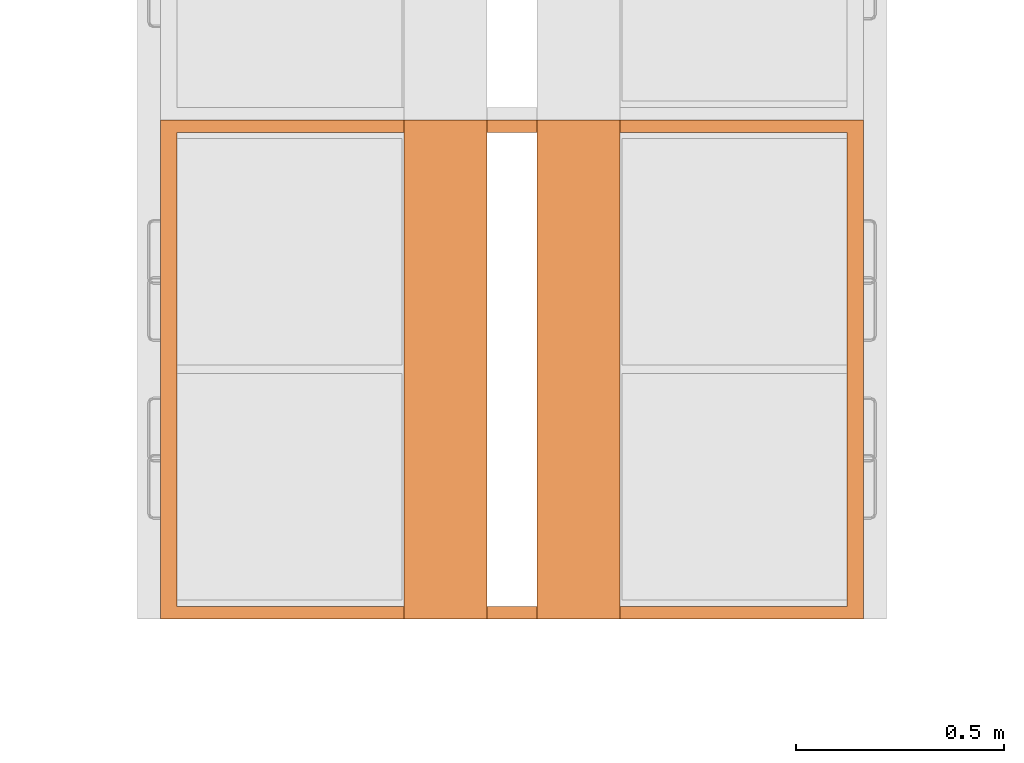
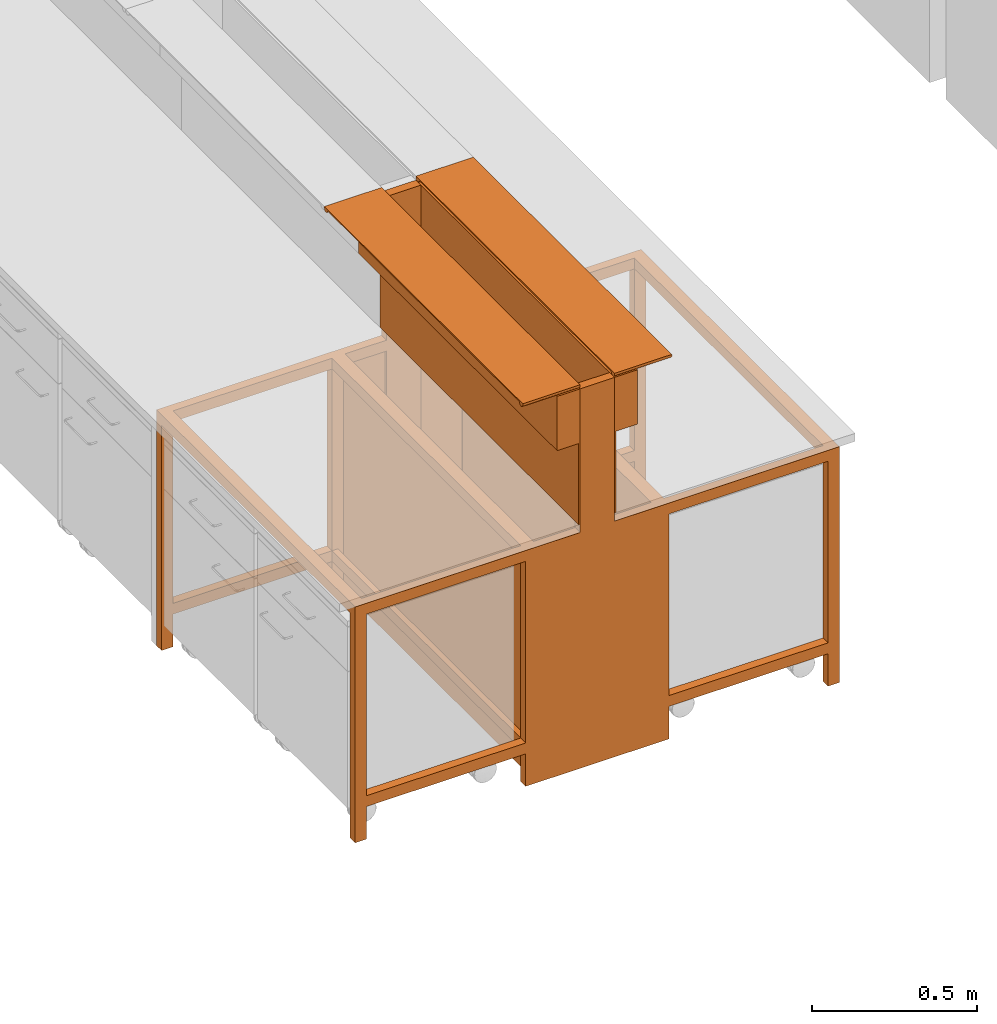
# One storey, part 2 of 43: 3 proxies.
"""IFC2X3 building model written with IfcOpenShell, lengths in metres."""

import ifcopenshell
import ifcopenshell.guid

model = None  # the IFC model being written
_history = None  # IfcOwnerHistory: only IFC2X3 demands one
_inside = {}  # id of a spatial element -> (the spatial element, [elements in it])
_under = {}  # id of a project, library or spatial element -> (it, [spatial elements below it])
_declared = {}  # id of a project -> (the project, [libraries it declares])
_typed = {}  # id of a type object -> (the type object, [elements of that type])
_made_of = {}  # id of a material, layer set ... -> (it, [elements and type objects made of it])


def new_model(schema):
    """Start an empty IFC model of exactly this schema.

    Asked for "IFC4X3", IfcOpenShell would pick the latest addendum, in which some entities
    have other attributes; the version numbers below select the first issue.
    IFC2X3 requires an IfcOwnerHistory on every rooted entity: one is made here for all.
    """
    global model, _history
    if schema == "IFC4X3":
        model = ifcopenshell.file(schema_version=(4, 3, 0, 0))
    else:
        model = ifcopenshell.file(schema=schema)
    _inside.clear()
    _under.clear()
    _declared.clear()
    _typed.clear()
    _made_of.clear()
    _history = None
    if model.schema == "IFC2X3":
        org = make("IfcOrganization", Name="unknown")
        user = make(
            "IfcPersonAndOrganization",
            ThePerson=make("IfcPerson", FamilyName="unknown"),
            TheOrganization=org,
        )
        app = make(
            "IfcApplication",
            ApplicationDeveloper=org,
            Version="unknown",
            ApplicationFullName="unknown",
            ApplicationIdentifier="unknown",
        )
        _history = make(
            "IfcOwnerHistory",
            OwningUser=user,
            OwningApplication=app,
            ChangeAction="ADDED",
            CreationDate=0,
        )
    return model


def make(cls, **values):
    """One entity of the class cls with the attributes given. An attribute that is None is left unset."""
    return model.create_entity(
        cls, **{name: value for name, value in values.items() if value is not None}
    )


def entity(cls, *values):
    """Any entity or typed value of the class cls, its attributes in the order of the schema. None: left unset."""
    e = model.create_entity(cls)
    for i, value in enumerate(values):
        if value is not None:
            e[i] = value
    return e


def rooted(cls, **values):
    """An entity with a GlobalId (a new one), such as an element, a storey or a relation."""
    return make(cls, GlobalId=ifcopenshell.guid.new(), OwnerHistory=_history, **values)


def si_unit(unit_type, name, prefix=None):
    """IfcSIUnit, for example si_unit("LENGTHUNIT", "METRE", prefix="MILLI")."""
    return make("IfcSIUnit", UnitType=unit_type, Prefix=prefix, Name=name)


def converted_unit(unit_type, name, factor, base, dimensions=None, offset=None):
    """IfcConversionBasedUnit, such as the inch: factor (a typed value) times the base unit."""
    return make(
        "IfcConversionBasedUnit"
        if offset is None
        else "IfcConversionBasedUnitWithOffset",
        ConversionOffset=offset,
        Dimensions=None
        if dimensions is None
        else entity("IfcDimensionalExponents", *dimensions),
        UnitType=unit_type,
        Name=name,
        ConversionFactor=make(
            "IfcMeasureWithUnit", ValueComponent=factor, UnitComponent=base
        ),
    )


def derived_unit(unit_type, elements):
    """IfcDerivedUnit: a product of units, each with its exponent."""
    return make(
        "IfcDerivedUnit",
        Elements=[
            make("IfcDerivedUnitElement", Unit=unit, Exponent=power)
            for unit, power in elements
        ],
        UnitType=unit_type,
    )


def assignment(units):
    """IfcUnitAssignment: the units of a project."""
    return None if units is None else make("IfcUnitAssignment", Units=units)


def point(xyz):
    """IfcCartesianPoint."""
    return None if xyz is None else make("IfcCartesianPoint", Coordinates=xyz)


def direction(xyz):
    """IfcDirection."""
    return None if xyz is None else make("IfcDirection", DirectionRatios=xyz)


def frame(location, z_axis=None, x_axis=None):
    """IfcAxis2Placement3D, a coordinate frame: its origin and axes. An axis left out is left unset."""
    return make(
        "IfcAxis2Placement3D",
        Location=point(location),
        Axis=direction(z_axis),
        RefDirection=direction(x_axis),
    )


def frame_2d(location, x_axis=None):
    """IfcAxis2Placement2D, a coordinate frame in the plane: its origin and x axis."""
    return make(
        "IfcAxis2Placement2D", Location=point(location), RefDirection=direction(x_axis)
    )


def origin():
    """The frame at (0, 0, 0) with its axes left unset."""
    return frame((0.0, 0.0, 0.0))


def origin_2d_with_axis():
    """The frame at (0, 0) in the plane with the x axis (1, 0) written out."""
    return frame_2d((0.0, 0.0), x_axis=(1.0, 0.0))


def place(relative_to, where):
    """IfcLocalPlacement: puts the frame where relative to a parent placement (None: the world)."""
    return make(
        "IfcLocalPlacement", PlacementRelTo=relative_to, RelativePlacement=where
    )


def context(
    kind, dimensions, precision=None, world=None, true_north=None, identifier=None
):
    """IfcGeometricRepresentationContext, for example the 3D "Model" context."""
    return make(
        "IfcGeometricRepresentationContext",
        ContextIdentifier=identifier,
        ContextType=kind,
        CoordinateSpaceDimension=dimensions,
        Precision=precision,
        WorldCoordinateSystem=world,
        TrueNorth=true_north,
    )


def subcontext(parent, identifier, kind, view, scale=None):
    """IfcGeometricRepresentationSubContext, for example "Body" below "Model"."""
    return make(
        "IfcGeometricRepresentationSubContext",
        ContextIdentifier=identifier,
        ContextType=kind,
        ParentContext=parent,
        TargetScale=scale,
        TargetView=view,
    )


def project(units=None, contexts=None):
    """IfcProject with its units and contexts."""
    return rooted(
        "IfcProject",
        Name="project",
        RepresentationContexts=contexts,
        UnitsInContext=assignment(units),
    )


def spatial(cls, under=None, at=None, **own):
    """A site, building, storey or space (cls), placed at a placement, below another one or the project."""
    s = rooted(cls, ObjectPlacement=at, **own)
    if under is not None:
        _under.setdefault(under.id(), (under, []))[1].append(s)
    return s


def polyline(points):
    """IfcPolyline through the points."""
    return make("IfcPolyline", Points=[point(p) for p in points])


def circle_curve(where, radius):
    """IfcCircle in the frame where."""
    return make("IfcCircle", Position=where, Radius=radius)


def parameter(value):
    """IfcParameterValue: where a trimmed curve begins or ends, as a parameter of its basis curve."""
    return model.create_entity("IfcParameterValue", value)


def trimmed(basis, trim1, trim2, sense, master):
    """IfcTrimmedCurve: the piece of a basis curve between two trims."""
    return make(
        "IfcTrimmedCurve",
        BasisCurve=basis,
        Trim1=trim1,
        Trim2=trim2,
        SenseAgreement=sense,
        MasterRepresentation=master,
    )


def segment(curve, same_sense, transition):
    """IfcCompositeCurveSegment."""
    return make(
        "IfcCompositeCurveSegment",
        Transition=transition,
        SameSense=same_sense,
        ParentCurve=curve,
    )


def composite_curve(segments, self_intersect=None):
    """IfcCompositeCurve: segments joined end to end."""
    return make("IfcCompositeCurve", Segments=segments, SelfIntersect=self_intersect)


def profile(cls, at=None, kind="AREA", **sizes):
    """A parametric profile (cls). Its sizes go by their IFC names, for example OverallWidth=200.0."""
    return make(cls, ProfileType=kind, Position=at, **sizes)


def rectangle(**sizes):
    """IfcRectangleProfileDef."""
    return profile("IfcRectangleProfileDef", **sizes)


def outline(outer, holes=None, kind="AREA"):
    """IfcArbitraryClosedProfileDef: a profile drawn as a closed curve; with holes, ...WithVoids."""
    if holes is None:
        return make("IfcArbitraryClosedProfileDef", ProfileType=kind, OuterCurve=outer)
    return make(
        "IfcArbitraryProfileDefWithVoids",
        ProfileType=kind,
        OuterCurve=outer,
        InnerCurves=holes,
    )


def extrude(swept, where, along, depth):
    """IfcExtrudedAreaSolid: the profile swept, set in the frame where, extruded along a direction by depth."""
    return make(
        "IfcExtrudedAreaSolid",
        SweptArea=swept,
        Position=where,
        ExtrudedDirection=direction(along),
        Depth=depth,
    )


def faces_of(points, faces, orient=None, outer=None):
    """IfcFace entities. A face is a list of loops; a loop is a list of indices into points, from 0.

    orient and outer hold one flag for each loop. By default every Orientation is true, the
    first loop of a face is its IfcFaceOuterBound and the others are IfcFaceBound.
    """
    made = []
    for i, loops in enumerate(faces):
        bounds = []
        for j, loop in enumerate(loops):
            is_outer = j == 0 if outer is None else outer[i][j]
            bounds.append(
                make(
                    "IfcFaceOuterBound" if is_outer else "IfcFaceBound",
                    Bound=make("IfcPolyLoop", Polygon=[points[k] for k in loop]),
                    Orientation=True if orient is None else orient[i][j],
                )
            )
        made.append(make("IfcFace", Bounds=bounds))
    return made


def faceted_brep(points, faces, orient=None, outer=None, voids=None):
    """IfcFacetedBrep: a solid bounded by flat faces; with voids (closed shells), ...WithVoids."""
    shared = [point(p) for p in points]
    hull = make("IfcClosedShell", CfsFaces=faces_of(shared, faces, orient, outer))
    if voids is None:
        return make("IfcFacetedBrep", Outer=hull)
    return make(
        "IfcFacetedBrepWithVoids",
        Outer=hull,
        Voids=[
            make(cls, CfsFaces=faces_of(shared, fs, o, b)) for cls, fs, o, b in voids
        ],
    )


def shape(context_of_items, identifier, shape_type, items):
    """IfcShapeRepresentation: the items that make up one representation, for example the "Body"."""
    return make(
        "IfcShapeRepresentation",
        ContextOfItems=context_of_items,
        RepresentationIdentifier=identifier,
        RepresentationType=shape_type,
        Items=items,
    )


def source(mapping_origin, context_of_items, identifier, shape_type, items):
    """IfcRepresentationMap: a shape defined once, which mapped items show again and again."""
    return make(
        "IfcRepresentationMap",
        MappingOrigin=mapping_origin,
        MappedRepresentation=shape(context_of_items, identifier, shape_type, items),
    )


def transform(
    local_origin,
    x_axis=None,
    y_axis=None,
    z_axis=None,
    scale=None,
    scale2=None,
    scale3=None,
    uniform=True,
):
    """IfcCartesianTransformationOperator3D, or its non-uniform kind. x_axis, y_axis, z_axis: its Axis1, 2, 3."""
    if uniform:
        return make(
            "IfcCartesianTransformationOperator3D",
            Axis1=direction(x_axis),
            Axis2=direction(y_axis),
            LocalOrigin=point(local_origin),
            Scale=scale,
            Axis3=direction(z_axis),
        )
    return make(
        "IfcCartesianTransformationOperator3DnonUniform",
        Axis1=direction(x_axis),
        Axis2=direction(y_axis),
        LocalOrigin=point(local_origin),
        Scale=scale,
        Axis3=direction(z_axis),
        Scale2=scale2,
        Scale3=scale3,
    )


def mapped(mapping_source, mapping_target):
    """IfcMappedItem: shows the shape of a source again, moved by a transform."""
    return make(
        "IfcMappedItem", MappingSource=mapping_source, MappingTarget=mapping_target
    )


def material(Name=None, Category=None):
    """IfcMaterial."""
    return make("IfcMaterial", Name=Name, Category=Category)


def material_list(materials):
    """IfcMaterialList."""
    return make("IfcMaterialList", Materials=materials)


def made_of(thing, what):
    """Note that an element or type object is made of a material, layer set ...; save() writes the relation."""
    if what is not None:
        _made_of.setdefault(what.id(), (what, []))[1].append(thing)
    return thing


def type_object(cls, material=None, **own):
    """A type object (cls), such as IfcWallType, which elements share."""
    return made_of(rooted(cls, **own), material)


def type_shapes(of_type, sources):
    """Give a type object the sources (RepresentationMaps) that its elements show as mapped items."""
    of_type.RepresentationMaps = sources


def element(
    cls,
    number,
    at=None,
    inside=None,
    cuts=None,
    type_object=None,
    material=None,
    context=None,
    identifier="Body",
    shape_type=None,
    held_by="IfcProductDefinitionShape",
    body=None,
    shapes=None,
    **own,
):
    """One element of the class cls, such as IfcWall. Its Tag is "e" and its number.

    at: its placement. inside: the storey or other place that contains it. cuts: it is an
    opening in that element (IfcRelVoidsElement). A single representation is given by context,
    identifier, shape_type and body (its items); several are given by shapes. held_by: the class
    of the entity that holds the representations. save() writes the other relations.
    """
    e = rooted(cls, Tag="e%d" % number, ObjectPlacement=at, **own)
    if body is not None:
        shapes = [shape(context, identifier, shape_type, body)]
    if shapes is not None:
        e.Representation = make(held_by, Representations=shapes)
    if inside is not None:
        _inside.setdefault(inside.id(), (inside, []))[1].append(e)
    if cuts is not None:
        rooted(
            "IfcRelVoidsElement", RelatingBuildingElement=cuts, RelatedOpeningElement=e
        )
    if type_object is not None:
        _typed.setdefault(type_object.id(), (type_object, []))[1].append(e)
    return made_of(e, material)


def aggregate(whole, parts):
    """IfcRelAggregates: a whole, such as a stair, and the parts it consists of."""
    return rooted("IfcRelAggregates", RelatingObject=whole, RelatedObjects=parts)


def save(model, path):
    """Write the relations noted so far, then the file.

    IfcRelAggregates (storeys below a building ...), IfcRelContainedInSpatialStructure (elements
    in a storey), IfcRelDefinesByType, IfcRelAssociatesMaterial and IfcRelDeclares: one each for
    every whole, place, type object, material and project.
    """
    for whole, parts in _under.values():
        aggregate(whole, parts)
    for where, things in _inside.values():
        rooted(
            "IfcRelContainedInSpatialStructure",
            RelatedElements=things,
            RelatingStructure=where,
        )
    for kind, things in _typed.values():
        rooted("IfcRelDefinesByType", RelatedObjects=things, RelatingType=kind)
    for what, things in _made_of.values():
        rooted("IfcRelAssociatesMaterial", RelatedObjects=things, RelatingMaterial=what)
    for by, libraries in _declared.values():
        rooted("IfcRelDeclares", RelatingContext=by, RelatedDefinitions=libraries)
    model.write(path)


model = new_model("IFC2X3")

# Units and contexts
model_context = context("Model", 3, precision=1e-05, world=origin(), true_north=direction((6.12303176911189e-17, 1.0)))
body_context = subcontext(model_context, "Body", "Model", "MODEL_VIEW")
ifc_project = project(units=[si_unit("LENGTHUNIT", "METRE"), si_unit("AREAUNIT", "SQUARE_METRE"), si_unit("VOLUMEUNIT", "CUBIC_METRE"), converted_unit("PLANEANGLEUNIT", "DEGREE", entity("IfcRatioMeasure", 0.0174532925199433), si_unit("PLANEANGLEUNIT", "RADIAN"), dimensions=[0, 0, 0, 0, 0, 0, 0]), si_unit("MASSUNIT", "GRAM", prefix="KILO"), derived_unit("MASSDENSITYUNIT", [(si_unit("MASSUNIT", "GRAM", prefix="KILO"), 1), (si_unit("LENGTHUNIT", "METRE"), -3)]), derived_unit("MOMENTOFINERTIAUNIT", [(si_unit("LENGTHUNIT", "METRE"), 4)]), si_unit("TIMEUNIT", "SECOND"), si_unit("FREQUENCYUNIT", "HERTZ"), si_unit("THERMODYNAMICTEMPERATUREUNIT", "DEGREE_CELSIUS"), derived_unit("THERMALTRANSMITTANCEUNIT", [(si_unit("MASSUNIT", "GRAM", prefix="KILO"), 1), (si_unit("THERMODYNAMICTEMPERATUREUNIT", "KELVIN"), -1), (si_unit("TIMEUNIT", "SECOND"), -3)]), derived_unit("VOLUMETRICFLOWRATEUNIT", [(si_unit("LENGTHUNIT", "METRE"), 3), (si_unit("TIMEUNIT", "SECOND"), -1)]), si_unit("ELECTRICCURRENTUNIT", "AMPERE"), si_unit("ELECTRICVOLTAGEUNIT", "VOLT"), si_unit("POWERUNIT", "WATT"), si_unit("FORCEUNIT", "NEWTON", prefix="KILO"), si_unit("ILLUMINANCEUNIT", "LUX"), si_unit("LUMINOUSFLUXUNIT", "LUMEN"), si_unit("LUMINOUSINTENSITYUNIT", "CANDELA"), derived_unit("USERDEFINED", [(si_unit("MASSUNIT", "GRAM", prefix="KILO"), -1), (si_unit("LENGTHUNIT", "METRE"), -2), (si_unit("TIMEUNIT", "SECOND"), 3), (si_unit("LUMINOUSFLUXUNIT", "LUMEN"), 1)]), derived_unit("LINEARVELOCITYUNIT", [(si_unit("LENGTHUNIT", "METRE"), 1), (si_unit("TIMEUNIT", "SECOND"), -1)]), si_unit("PRESSUREUNIT", "PASCAL"), derived_unit("USERDEFINED", [(si_unit("LENGTHUNIT", "METRE"), -2), (si_unit("MASSUNIT", "GRAM", prefix="KILO"), 1), (si_unit("TIMEUNIT", "SECOND"), -2)]), derived_unit("LINEARFORCEUNIT", [(si_unit("MASSUNIT", "GRAM", prefix="KILO"), 1), (si_unit("LENGTHUNIT", "METRE"), 1), (si_unit("TIMEUNIT", "SECOND"), -2), (si_unit("LENGTHUNIT", "METRE"), -1)]), derived_unit("PLANARFORCEUNIT", [(si_unit("MASSUNIT", "GRAM", prefix="KILO"), 1), (si_unit("LENGTHUNIT", "METRE"), 1), (si_unit("TIMEUNIT", "SECOND"), -2), (si_unit("LENGTHUNIT", "METRE"), -2)])], contexts=[model_context])

# Site, building, storey
site_placement = place(None, origin())
site = spatial("IfcSite", under=ifc_project, at=site_placement, Name="Default", CompositionType="ELEMENT")
building_placement = place(site_placement, origin())
building = spatial("IfcBuilding", under=site, at=building_placement, CompositionType="ELEMENT")
storey_placement = place(building_placement, frame((0.0, 0.0, 3.0)))
storey = spatial("IfcBuildingStorey", under=building, at=storey_placement, Name="01 OG", CompositionType="ELEMENT", Elevation=3.0)

# Proxies
ifc_material_1 = material(Name="dh_Weiß")
ifc_material_2 = material(Name="dh_Glas WHS")
ifc_material_3 = material(Name="dh_Blau")
ifc_material_list_1 = material_list([ifc_material_1, ifc_material_2, ifc_material_3])
ifc_material_list_2 = material_list([ifc_material_2, ifc_material_3, ifc_material_1])
building_element_proxy_type_1 = type_object("IfcBuildingElementProxyType", Name="dh_Medienwand WHA:120 Stehtisch", PredefinedType="NOTDEFINED", material=ifc_material_list_2)
shared_shape_1 = source(origin(), body_context, "Body", "SweptSolid", [
    extrude(outline(composite_curve([segment(trimmed(circle_curve(frame_2d((0.0, 0.0), x_axis=(-1.0, 0.0)), 0.01), [parameter(0.0)], [parameter(180.0)], True, "PARAMETER"), True, "CONTINUOUS"), segment(polyline([(0.01, 0.0), (-0.01, 0.0)]), True, "CONTINUOUS")], self_intersect=False)), frame((-0.589999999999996, 0.1, 1.40999999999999), z_axis=(0.0, -1.0, 0.0), x_axis=(1.0, 0.0, 0.0)), (0.0, 0.0, -1.0), 0.2),
    extrude(outline(composite_curve([segment(trimmed(circle_curve(origin_2d_with_axis(), 0.00999999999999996), [parameter(0.0)], [parameter(180.0)], True, "PARAMETER"), True, "CONTINUOUS"), segment(polyline([(-0.0099999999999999, 0.0), (0.0099999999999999, 0.0)]), True, "CONTINUOUS")], self_intersect=False)), frame((0.590000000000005, 0.1, 1.40999999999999), z_axis=(0.0, 1.0, 0.0), x_axis=(1.0, 0.0, 0.0)), (0.0, 0.0, 1.0), 0.2),
    extrude(rectangle(XDim=1.2, YDim=0.2, at=origin_2d_with_axis()), frame((0.0, 0.2, 1.40999999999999), z_axis=(0.0, 0.0, 1.0), x_axis=(-1.0, 0.0, 0.0)), (0.0, 0.0, 1.0), 0.00499999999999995),
    extrude(rectangle(XDim=0.00500000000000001, YDim=1.2, at=frame_2d((-3.38271077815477e-17, 0.0), x_axis=(1.0, 0.0))), frame((0.0, 0.2975, 0.900000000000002), z_axis=(0.0, 0.0, 1.0), x_axis=(0.0, 1.0, 0.0)), (0.0, 0.0, 1.0), 0.299999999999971),
    extrude(rectangle(XDim=1.2, YDim=0.08, at=frame_2d((0.0, 3.46944695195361e-17), x_axis=(1.0, 0.0))), frame((0.0, 0.26, 1.20000000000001), z_axis=(0.0, 0.0, 1.0), x_axis=(-1.0, 0.0, 0.0)), (0.0, 0.0, 1.0), 0.199999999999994),
])
type_shapes(building_element_proxy_type_1, [shared_shape_1])
proxy_1_placement = place(storey_placement, frame((13.24, 12.1240000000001, 0.7), z_axis=(0.0, 0.0, 1.0), x_axis=(0.0, -1.0, 0.0)))
element("IfcBuildingElementProxy", 1, at=proxy_1_placement, inside=storey, type_object=building_element_proxy_type_1, material=ifc_material_list_1, Name="dh_Medienwand WHA:120 Stehtisch", ObjectType="dh_Medienwand WHA:120 Stehtisch", context=body_context, shape_type="MappedRepresentation", body=[
    mapped(shared_shape_1, transform((0.0, 0.0, 0.0), scale=1.0)),
])
ifc_material_list_3 = material_list([ifc_material_1, ifc_material_2, ifc_material_3])
proxy_2_placement = place(storey_placement, frame((13.96, 12.1240000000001, 0.7), z_axis=(0.0, 0.0, 1.0), x_axis=(0.0, 1.0, 0.0)))
element("IfcBuildingElementProxy", 2, at=proxy_2_placement, inside=storey, type_object=building_element_proxy_type_1, material=ifc_material_list_3, Name="dh_Medienwand WHA:120 Stehtisch", ObjectType="dh_Medienwand WHA:120 Stehtisch", context=body_context, shape_type="MappedRepresentation", body=[
    mapped(shared_shape_1, transform((0.0, 0.0, 0.0), scale=1.0)),
])
ifc_material_4 = material(Name="dh_EZ blau")
ifc_material_5 = material(Name="Stopper")
ifc_material_list_4 = material_list([ifc_material_4, ifc_material_5, ifc_material_1])
ifc_material_list_5 = material_list([ifc_material_2, ifc_material_4])
building_element_proxy_type_2 = type_object("IfcBuildingElementProxyType", Name="dh_Energiezelle-Doppel ST:DEZ_ST120 ohne WHS WHA", PredefinedType="NOTDEFINED", material=ifc_material_list_5)
shared_shape_2 = source(origin(), body_context, "Body", "Brep", [
    faceted_brep([(0.6, 0.119999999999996, 1.4), (0.57, 0.119999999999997, 1.4), (0.57, 0.0, 1.4), (0.6, 0.0, 1.4), (0.57, 0.119999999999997, 0.0), (0.6, 0.119999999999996, 0.0), (0.6, 0.0, 0.0), (0.57, 0.0, 0.0)], [[[0, 1, 2, 3]], [[4, 5, 6, 7]], [[2, 1, 4, 7]], [[1, 0, 5, 4]], [[0, 3, 6, 5]], [[3, 2, 7, 6]]]),
    faceted_brep([(-0.6, 0.0, 1.4), (-0.599999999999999, 0.120000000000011, 1.4), (-0.599999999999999, 0.120000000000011, 0.0), (-0.6, 0.0, 0.0), (-0.569999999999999, 0.120000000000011, 1.4), (-0.569999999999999, 0.120000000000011, 0.0), (-0.570000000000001, 0.0, 1.4), (-0.57, 0.0, 0.0)], [[[0, 1, 2, 3]], [[1, 4, 5, 2]], [[4, 6, 7, 5]], [[6, 0, 3, 7]], [[2, 5, 7, 3]], [[4, 1, 0, 6]]]),
    faceted_brep([(-0.599999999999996, 0.120000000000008, 0.870000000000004), (-0.570000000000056, 0.120000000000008, 0.870000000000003), (-0.570000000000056, 0.270000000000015, 0.870000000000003), (0.569999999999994, 0.270000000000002, 0.87), (0.569999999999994, 0.12, 0.87), (0.600000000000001, 0.12, 0.87), (0.600000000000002, 0.904999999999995, 0.87), (-0.599999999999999, 0.905000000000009, 0.870000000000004), (0.569999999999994, 0.31, 0.87), (-0.570000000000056, 0.310000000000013, 0.870000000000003), (-0.570000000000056, 0.865000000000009, 0.870000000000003), (0.569999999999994, 0.864999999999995, 0.87), (0.569999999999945, 0.865000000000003, 0.83), (-0.570000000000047, 0.865000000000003, 0.830000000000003), (-0.570000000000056, 0.905000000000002, 0.830000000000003), (0.569999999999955, 0.905000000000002, 0.83), (-0.570000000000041, 0.270000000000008, 0.830000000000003), (0.569999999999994, 0.270000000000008, 0.83), (0.56999999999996, 0.31000000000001, 0.83), (-0.570000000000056, 0.31000000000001, 0.830000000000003), (-0.570000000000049, 0.905000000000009, 0.0100000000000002), (-0.600000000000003, 0.905000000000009, 0.0100000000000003), (0.599999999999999, 0.904999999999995, 0.00999999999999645), (0.569999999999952, 0.904999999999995, 0.00999999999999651), (0.599999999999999, 0.864999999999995, 0.00999999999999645), (0.569999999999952, 0.864999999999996, 0.00999999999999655), (-0.600000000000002, 0.865000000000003, 0.0100000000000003), (-0.599999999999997, 0.865000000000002, 0.830000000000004), (-0.600000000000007, 0.310000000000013, 0.830000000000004), (-0.60000000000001, 0.310000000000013, 0.0100000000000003), (-0.60000000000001, 0.270000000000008, 0.0100000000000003), (-0.600000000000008, 0.270000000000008, 0.830000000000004), (-0.599999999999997, 0.120000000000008, 0.830000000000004), (-0.570000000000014, 0.270000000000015, 0.0100000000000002), (-0.570000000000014, 0.31000000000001, 0.0100000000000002), (0.569999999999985, 0.31, 0.00999999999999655), (0.569999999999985, 0.270000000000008, 0.00999999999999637), (0.600000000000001, 0.12, 0.83), (0.599999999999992, 0.270000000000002, 0.83), (0.599999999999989, 0.270000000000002, 0.00999999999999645), (0.59999999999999, 0.31000000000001, 0.00999999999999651), (0.599999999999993, 0.31000000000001, 0.83), (0.599999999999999, 0.864999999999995, 0.83), (-0.570000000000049, 0.865000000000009, 0.0100000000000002), (-0.570000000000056, 0.120000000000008, 0.830000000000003), (0.569999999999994, 0.12, 0.83)], [[[0, 1, 2, 3, 4, 5, 6, 7], [8, 9, 10, 11]], [[12, 13, 14, 15]], [[16, 17, 3, 2]], [[18, 19, 9, 8]], [[13, 12, 11, 10]], [[15, 14, 20, 21, 7, 6, 22, 23]], [[24, 25, 23, 22]], [[0, 7, 21, 26, 27, 28, 29, 30, 31, 32]], [[33, 34, 19, 16]], [[35, 36, 17, 18]], [[6, 5, 37, 38, 39, 40, 41, 42, 24, 22]], [[43, 20, 14, 13]], [[23, 25, 12, 15]], [[44, 32, 31, 16]], [[1, 0, 32, 44]], [[10, 9, 19, 13]], [[8, 11, 12, 18]], [[5, 4, 45, 37]], [[45, 4, 3, 17]], [[1, 44, 16, 2]], [[37, 45, 17, 38]], [[18, 12, 42, 41]], [[13, 19, 28, 27]], [[43, 26, 21, 20]], [[39, 36, 35, 40]], [[33, 30, 29, 34]], [[26, 43, 13, 27]], [[25, 24, 42, 12]], [[40, 35, 18, 41]], [[34, 29, 28, 19]], [[30, 33, 16, 31]], [[36, 39, 38, 17]], [[17, 16, 19, 18]]]),
    faceted_brep([(-0.599999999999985, 0.270000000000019, 0.01), (-0.570000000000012, 0.270000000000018, 0.01), (-0.570000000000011, 0.310000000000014, 0.01), (-0.599999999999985, 0.310000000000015, 0.01), (-0.599999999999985, 0.310000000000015, 0.0), (-0.599999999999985, 0.270000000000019, 0.0), (-0.570000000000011, 0.310000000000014, 0.0), (-0.570000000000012, 0.270000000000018, 0.0)], [[[0, 1, 2, 3]], [[0, 3, 4, 5]], [[3, 2, 6, 4]], [[2, 1, 7, 6]], [[1, 0, 5, 7]], [[5, 4, 6, 7]]]),
    faceted_brep([(0.56999999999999, 0.270000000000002, 0.0), (0.569999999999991, 0.31, 0.0), (0.600000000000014, 0.31, 0.0), (0.600000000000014, 0.270000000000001, 0.0), (0.56999999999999, 0.270000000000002, 0.01), (0.569999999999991, 0.31, 0.01), (0.600000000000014, 0.31, 0.01), (0.600000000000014, 0.270000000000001, 0.01)], [[[0, 1, 2, 3]], [[4, 5, 1, 0]], [[5, 6, 2, 1]], [[6, 7, 3, 2]], [[7, 4, 0, 3]], [[4, 7, 6, 5]]]),
    faceted_brep([(0.570000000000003, 0.864999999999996, 0.01), (0.570000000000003, 0.904999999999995, 0.01), (0.570000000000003, 0.904999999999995, 0.0), (0.570000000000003, 0.864999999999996, 0.0), (0.600000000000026, 0.904999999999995, 0.01), (0.600000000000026, 0.904999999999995, 0.0), (0.600000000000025, 0.864999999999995, 0.01), (0.600000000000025, 0.864999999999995, 0.0)], [[[0, 1, 2, 3]], [[1, 4, 5, 2]], [[4, 6, 7, 5]], [[6, 0, 3, 7]], [[3, 2, 5, 7]], [[0, 6, 4, 1]]]),
    faceted_brep([(-0.599999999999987, 0.865000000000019, 0.01), (-0.599999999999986, 0.905000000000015, 0.01), (-0.599999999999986, 0.905000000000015, 0.0), (-0.599999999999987, 0.865000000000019, 0.0), (-0.569999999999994, 0.905000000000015, 0.01), (-0.569999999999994, 0.905000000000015, 0.0), (-0.569999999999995, 0.865000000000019, 0.01), (-0.569999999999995, 0.865000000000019, 0.0)], [[[0, 1, 2, 3]], [[1, 4, 5, 2]], [[4, 6, 7, 5]], [[6, 0, 3, 7]], [[3, 2, 5, 7]], [[0, 6, 4, 1]]]),
    faceted_brep([(0.569999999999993, 0.27, 0.870000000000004), (-0.570000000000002, 0.270000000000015, 0.870000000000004), (-0.570000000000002, 0.265000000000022, 0.870000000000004), (0.569999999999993, 0.265000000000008, 0.870000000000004), (0.569999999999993, 0.27, 0.0), (0.569999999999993, 0.265000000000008, 0.0), (-0.570000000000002, 0.265000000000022, 0.0), (-0.570000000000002, 0.270000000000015, 0.0)], [[[0, 1, 2, 3]], [[4, 5, 6, 7]], [[1, 0, 4, 7]], [[2, 1, 7, 6]], [[3, 2, 6, 5]], [[0, 3, 5, 4]]]),
    faceted_brep([(-0.6, 0.120000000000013, 0.830000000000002), (-0.58, 0.120000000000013, 0.830000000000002), (-0.579999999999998, 0.270000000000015, 0.830000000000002), (-0.599999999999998, 0.270000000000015, 0.830000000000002), (-0.599999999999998, 0.270000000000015, 0.0), (-0.6, 0.120000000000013, 0.0), (-0.579999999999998, 0.270000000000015, 0.0), (-0.58, 0.120000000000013, 0.0)], [[[0, 1, 2, 3]], [[0, 3, 4, 5]], [[3, 2, 6, 4]], [[2, 1, 7, 6]], [[1, 0, 5, 7]], [[5, 4, 6, 7]]]),
    faceted_brep([(0.58, 0.119999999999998, 0.0), (0.580000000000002, 0.270000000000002, 0.0), (0.600000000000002, 0.270000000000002, 0.0), (0.6, 0.119999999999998, 0.0), (0.58, 0.119999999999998, 0.830000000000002), (0.580000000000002, 0.270000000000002, 0.830000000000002), (0.600000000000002, 0.270000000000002, 0.830000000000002), (0.6, 0.119999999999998, 0.830000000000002)], [[[0, 1, 2, 3]], [[4, 5, 1, 0]], [[5, 6, 2, 1]], [[6, 7, 3, 2]], [[7, 4, 0, 3]], [[4, 7, 6, 5]]]),
    faceted_brep([(0.569999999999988, 0.290000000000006, 0.16), (0.569999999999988, 0.310000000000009, 0.16), (-0.570000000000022, 0.310000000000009, 0.160000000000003), (-0.570000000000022, 0.290000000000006, 0.160000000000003), (0.569999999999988, 0.290000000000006, 0.12), (-0.570000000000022, 0.290000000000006, 0.120000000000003), (-0.570000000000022, 0.310000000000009, 0.120000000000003), (0.569999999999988, 0.310000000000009, 0.12)], [[[0, 1, 2, 3]], [[4, 5, 6, 7]], [[0, 3, 5, 4]], [[3, 2, 6, 5]], [[2, 1, 7, 6]], [[1, 0, 4, 7]]]),
    faceted_brep([(0.569999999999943, 0.310000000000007, 0.16), (0.599999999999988, 0.310000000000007, 0.16), (0.599999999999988, 0.865000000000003, 0.16), (0.569999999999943, 0.865000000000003, 0.16), (0.569999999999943, 0.310000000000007, 0.12), (0.569999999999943, 0.865000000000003, 0.12), (0.599999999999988, 0.865000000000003, 0.12), (0.599999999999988, 0.310000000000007, 0.12)], [[[0, 1, 2, 3]], [[4, 5, 6, 7]], [[0, 3, 5, 4]], [[3, 2, 6, 5]], [[2, 1, 7, 6]], [[1, 0, 4, 7]]]),
    faceted_brep([(-0.570000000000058, 0.310000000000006, 0.160000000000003), (-0.600000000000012, 0.310000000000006, 0.160000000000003), (-0.600000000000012, 0.310000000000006, 0.120000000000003), (-0.570000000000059, 0.310000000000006, 0.120000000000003), (-0.600000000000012, 0.865000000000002, 0.160000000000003), (-0.600000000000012, 0.865000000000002, 0.120000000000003), (-0.570000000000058, 0.865000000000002, 0.160000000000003), (-0.570000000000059, 0.865000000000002, 0.120000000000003)], [[[0, 1, 2, 3]], [[1, 4, 5, 2]], [[4, 6, 7, 5]], [[6, 0, 3, 7]], [[3, 2, 5, 7]], [[0, 6, 4, 1]]]),
    faceted_brep([(-0.599999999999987, -0.150000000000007, 0.01), (-0.599999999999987, -0.190000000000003, 0.01), (-0.570000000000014, -0.190000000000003, 0.01), (-0.570000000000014, -0.150000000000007, 0.01), (-0.599999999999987, -0.150000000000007, 0.0), (-0.599999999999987, -0.190000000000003, 0.0), (-0.570000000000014, -0.190000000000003, 0.0), (-0.570000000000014, -0.150000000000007, 0.0)], [[[0, 1, 2, 3]], [[1, 0, 4, 5]], [[2, 1, 5, 6]], [[3, 2, 6, 7]], [[0, 3, 7, 4]], [[4, 7, 6, 5]]]),
    faceted_brep([(-0.599999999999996, -0.745000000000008, 0.0), (-0.570000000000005, -0.745000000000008, 0.0), (-0.570000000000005, -0.785000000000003, 0.0), (-0.599999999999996, -0.785000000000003, 0.0), (-0.599999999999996, -0.785000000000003, 0.01), (-0.599999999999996, -0.745000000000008, 0.01), (-0.570000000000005, -0.785000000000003, 0.01), (-0.570000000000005, -0.745000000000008, 0.01)], [[[0, 1, 2, 3]], [[4, 5, 0, 3]], [[6, 4, 3, 2]], [[7, 6, 2, 1]], [[5, 7, 1, 0]], [[5, 4, 6, 7]]]),
    faceted_brep([(0.569999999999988, -0.190000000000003, 0.01), (0.569999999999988, -0.150000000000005, 0.01), (0.569999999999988, -0.150000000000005, 0.0), (0.569999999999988, -0.190000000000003, 0.0), (0.600000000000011, -0.190000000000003, 0.01), (0.600000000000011, -0.190000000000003, 0.0), (0.600000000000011, -0.150000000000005, 0.01), (0.600000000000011, -0.150000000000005, 0.0)], [[[0, 1, 2, 3]], [[4, 0, 3, 5]], [[6, 4, 5, 7]], [[1, 6, 7, 2]], [[2, 7, 5, 3]], [[1, 0, 4, 6]]]),
    faceted_brep([(0.569999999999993, -0.784999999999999, 0.01), (0.569999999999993, -0.744999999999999, 0.01), (0.569999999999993, -0.744999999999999, 0.0), (0.569999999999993, -0.784999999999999, 0.0), (0.600000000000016, -0.784999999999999, 0.01), (0.600000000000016, -0.784999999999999, 0.0), (0.600000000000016, -0.744999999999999, 0.01), (0.600000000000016, -0.744999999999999, 0.0)], [[[0, 1, 2, 3]], [[4, 0, 3, 5]], [[6, 4, 5, 7]], [[1, 6, 7, 2]], [[2, 7, 5, 3]], [[1, 0, 4, 6]]]),
    faceted_brep([(0.569999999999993, -0.150000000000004, 0.870000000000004), (0.569999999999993, -0.145000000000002, 0.870000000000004), (-0.570000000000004, -0.145000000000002, 0.870000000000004), (-0.570000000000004, -0.150000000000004, 0.870000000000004), (0.569999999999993, -0.150000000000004, 0.0), (-0.570000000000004, -0.150000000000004, 0.0), (-0.570000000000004, -0.145000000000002, 0.0), (0.569999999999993, -0.145000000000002, 0.0)], [[[0, 1, 2, 3]], [[4, 5, 6, 7]], [[0, 3, 5, 4]], [[3, 2, 6, 5]], [[2, 1, 7, 6]], [[1, 0, 4, 7]]]),
    faceted_brep([(-0.6, 0.0, 0.830000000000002), (-0.6, -0.150000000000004, 0.830000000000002), (-0.58, -0.150000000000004, 0.830000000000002), (-0.58, 0.0, 0.830000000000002), (-0.6, 0.0, 0.0), (-0.58, 0.0, 0.0), (-0.58, -0.150000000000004, 0.0), (-0.6, -0.150000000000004, 0.0)], [[[0, 1, 2, 3]], [[4, 5, 6, 7]], [[1, 0, 4, 7]], [[2, 1, 7, 6]], [[3, 2, 6, 5]], [[0, 3, 5, 4]]]),
    faceted_brep([(0.58, -0.150000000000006, 0.830000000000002), (0.58, 0.0, 0.830000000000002), (0.58, 0.0, 0.0), (0.58, -0.150000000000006, 0.0), (0.6, -0.150000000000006, 0.830000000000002), (0.6, -0.150000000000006, 0.0), (0.6, 0.0, 0.830000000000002), (0.6, 0.0, 0.0)], [[[0, 1, 2, 3]], [[4, 0, 3, 5]], [[6, 4, 5, 7]], [[1, 6, 7, 2]], [[2, 7, 5, 3]], [[1, 0, 4, 6]]]),
    faceted_brep([(-0.570000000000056, 0.0, 0.870000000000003), (-0.60000000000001, 0.0, 0.870000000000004), (-0.600000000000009, -0.784999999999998, 0.870000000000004), (0.599999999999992, -0.784999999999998, 0.87), (0.59999999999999, 0.0, 0.87), (0.569999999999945, 0.0, 0.87), (0.569999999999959, -0.150000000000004, 0.87), (-0.570000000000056, -0.150000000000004, 0.870000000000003), (-0.570000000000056, -0.744999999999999, 0.870000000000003), (-0.570000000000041, -0.190000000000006, 0.870000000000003), (0.569999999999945, -0.190000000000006, 0.87), (0.569999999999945, -0.744999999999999, 0.87), (-0.60000000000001, 0.0, 0.830000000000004), (-0.570000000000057, 0.0, 0.830000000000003), (-0.570000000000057, -0.150000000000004, 0.830000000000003), (-0.60000000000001, -0.150000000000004, 0.830000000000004), (-0.600000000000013, -0.150000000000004, 0.0100000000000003), (-0.600000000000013, -0.190000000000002, 0.0100000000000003), (-0.60000000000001, -0.190000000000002, 0.830000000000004), (-0.60000000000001, -0.744999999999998, 0.830000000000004), (-0.600000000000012, -0.744999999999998, 0.0100000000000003), (-0.600000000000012, -0.784999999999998, 0.0100000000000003), (0.569999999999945, 0.0, 0.83), (0.569999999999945, -0.150000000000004, 0.83), (0.59999999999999, 0.0, 0.83), (0.599999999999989, -0.784999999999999, 0.00999999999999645), (0.599999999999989, -0.744999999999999, 0.00999999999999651), (0.59999999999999, -0.744999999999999, 0.83), (0.59999999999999, -0.190000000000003, 0.83), (0.599999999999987, -0.190000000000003, 0.00999999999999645), (0.599999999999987, -0.150000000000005, 0.00999999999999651), (0.59999999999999, -0.150000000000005, 0.83), (-0.570000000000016, -0.150000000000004, 0.0100000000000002), (-0.570000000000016, -0.190000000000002, 0.0100000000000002), (-0.570000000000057, -0.190000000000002, 0.830000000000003), (0.569999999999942, -0.150000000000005, 0.00999999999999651), (0.569999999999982, -0.190000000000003, 0.00999999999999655), (0.569999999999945, -0.190000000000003, 0.83), (-0.570000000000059, -0.744999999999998, 0.0100000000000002), (-0.570000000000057, -0.744999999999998, 0.830000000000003), (-0.570000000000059, -0.784999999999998, 0.0100000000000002), (-0.570000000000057, -0.784999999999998, 0.830000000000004), (0.569999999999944, -0.784999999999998, 0.83), (0.569999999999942, -0.784999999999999, 0.00999999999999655), (0.569999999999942, -0.744999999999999, 0.00999999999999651), (0.569999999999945, -0.744999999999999, 0.83)], [[[0, 1, 2, 3, 4, 5, 6, 7], [8, 9, 10, 11]], [[12, 13, 14, 15]], [[1, 0, 13, 12]], [[1, 12, 15, 16, 17, 18, 19, 20, 21, 2]], [[13, 0, 7, 14]], [[5, 22, 23, 6]], [[24, 4, 3, 25, 26, 27, 28, 29, 30, 31]], [[5, 4, 24, 22]], [[32, 33, 17, 16]], [[32, 16, 15, 14]], [[17, 33, 34, 18]], [[30, 35, 23, 31]], [[36, 29, 28, 37]], [[38, 20, 19, 39]], [[3, 2, 21, 40, 41, 42, 43, 25]], [[26, 44, 45, 27]], [[42, 41, 39, 45]], [[7, 6, 23, 14]], [[10, 9, 34, 37]], [[8, 11, 45, 39]], [[37, 34, 14, 23]], [[38, 40, 21, 20]], [[30, 29, 36, 35]], [[26, 25, 43, 44]], [[37, 45, 11, 10]], [[35, 36, 37, 23]], [[44, 43, 42, 45]], [[39, 34, 9, 8]], [[40, 38, 39, 41]], [[33, 32, 14, 34]], [[34, 39, 19, 18]], [[22, 24, 31, 23]], [[28, 27, 45, 37]]]),
    faceted_brep([(0.569999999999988, -0.170000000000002, 0.16), (-0.570000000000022, -0.170000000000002, 0.160000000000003), (-0.570000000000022, -0.190000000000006, 0.160000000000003), (0.569999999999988, -0.190000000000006, 0.16), (0.569999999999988, -0.170000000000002, 0.12), (0.569999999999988, -0.190000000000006, 0.12), (-0.570000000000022, -0.190000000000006, 0.120000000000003), (-0.570000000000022, -0.170000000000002, 0.120000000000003)], [[[0, 1, 2, 3]], [[4, 5, 6, 7]], [[1, 0, 4, 7]], [[2, 1, 7, 6]], [[3, 2, 6, 5]], [[0, 3, 5, 4]]]),
    faceted_brep([(0.569999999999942, -0.190000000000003, 0.16), (0.569999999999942, -0.744999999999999, 0.16), (0.599999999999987, -0.744999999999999, 0.16), (0.599999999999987, -0.190000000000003, 0.16), (0.569999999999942, -0.190000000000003, 0.12), (0.569999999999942, -0.744999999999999, 0.12), (0.599999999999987, -0.744999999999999, 0.12), (0.599999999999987, -0.190000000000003, 0.12)], [[[0, 1, 2, 3]], [[1, 0, 4, 5]], [[2, 1, 5, 6]], [[3, 2, 6, 7]], [[0, 3, 7, 4]], [[4, 7, 6, 5]]]),
    faceted_brep([(-0.570000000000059, -0.190000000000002, 0.120000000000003), (-0.570000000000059, -0.744999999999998, 0.120000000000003), (-0.600000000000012, -0.744999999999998, 0.120000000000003), (-0.600000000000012, -0.190000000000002, 0.120000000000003), (-0.600000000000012, -0.190000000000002, 0.160000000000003), (-0.570000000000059, -0.190000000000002, 0.160000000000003), (-0.600000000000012, -0.744999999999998, 0.160000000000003), (-0.570000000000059, -0.744999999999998, 0.160000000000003)], [[[0, 1, 2, 3]], [[4, 5, 0, 3]], [[6, 4, 3, 2]], [[7, 6, 2, 1]], [[5, 7, 1, 0]], [[5, 4, 6, 7]]]),
])
type_shapes(building_element_proxy_type_2, [shared_shape_2])
proxy_3_placement = place(storey_placement, frame((13.66, 12.1240000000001, 0.7), z_axis=(0.0, 0.0, 1.0), x_axis=(0.0, 1.0, 0.0)))
element("IfcBuildingElementProxy", 3, at=proxy_3_placement, inside=storey, type_object=building_element_proxy_type_2, material=ifc_material_list_4, Name="dh_Energiezelle-Doppel ST:DEZ_ST120 ohne WHS WHA", ObjectType="dh_Energiezelle-Doppel ST:DEZ_ST120 ohne WHS WHA", context=body_context, shape_type="MappedRepresentation", body=[
    mapped(shared_shape_2, transform((0.0, 0.0, 0.0), scale=1.0)),
])

save(model, "model.ifc")
